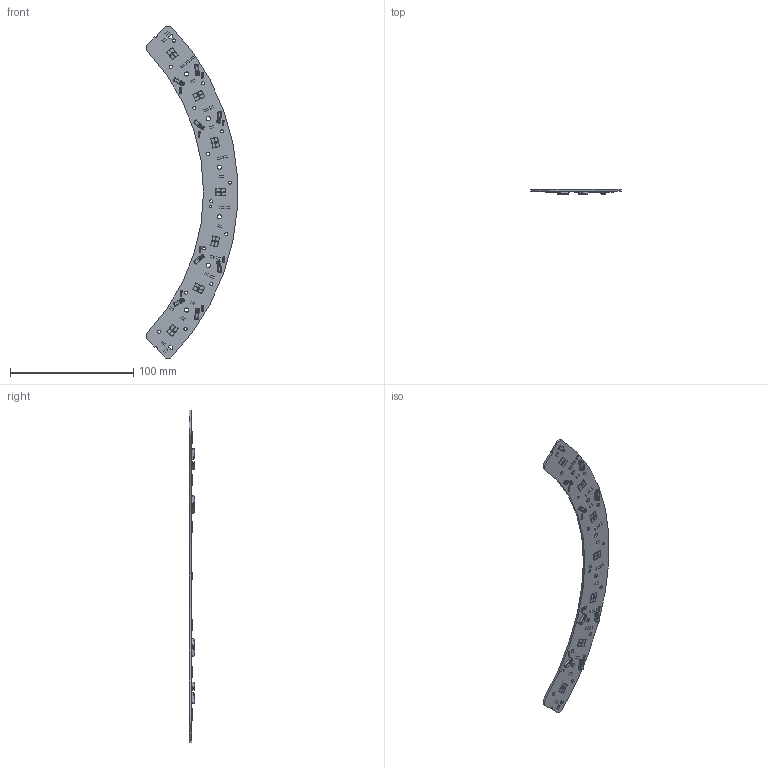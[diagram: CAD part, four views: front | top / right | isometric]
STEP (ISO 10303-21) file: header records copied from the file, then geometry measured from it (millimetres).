
FILE_DESCRIPTION(/* description */ ('Unknown'),/* implementation_level */ '2;1');
FILE_NAME(/* name */ 'RdLED 1-4 RING DAISY-7X1-CRV2 sh-210 2023-10-20',/* time_stamp */ '2023-10-20T10:31:50+02:00',/* author */ ('Unknown'),/* organization */ ('Unknown'),/* preprocessor_version */ 'ST-DEVELOPER v18.102',/* originating_system */ 'Solid Edge',/* authorisation */ 'Unknown');
FILE_SCHEMA (('AUTOMOTIVE_DESIGN {1 0 10303 214 3 1 1}'));
Length unit declared in the file: millimetre
Products named in the file (1): RdLED 1-4 RING  DAISY-7X1-CRV2 sh-210 2023-10-20
Bounding box: 73.67 x 4.33 x 269.41 mm (x, y, z)
Volume: 13068 mm3; surface area: 18080.7 mm2
Topology: 1 solids, 1 shells, 2455 faces, 6375 edges, 4194 vertices
Faces by surface type: plane 1986, cylinder 357, bspline 88, sphere 16, cone 8
Full cylindrical faces by diameter (mm): 1.25 x8, 2.1 x9, 2.5 x14, 3.3 x6
Entity records: 94210 total; most frequent: CARTESIAN_POINT 18572, ORIENTED_EDGE 12644, DIRECTION 10668, EDGE_CURVE 6322, LINE 4776, VECTOR 4776, VERTEX_POINT 4178, AXIS2_PLACEMENT_3D 2946
